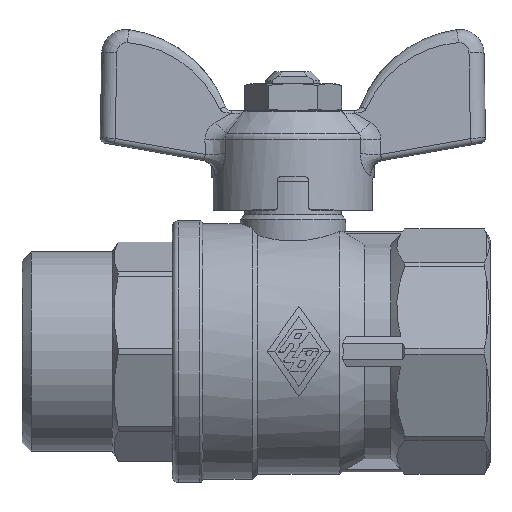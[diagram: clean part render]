
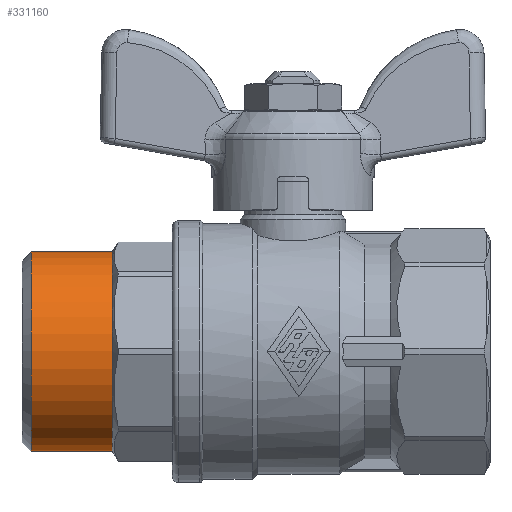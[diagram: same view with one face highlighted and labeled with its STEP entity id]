
A CAD part, top view. The second image highlights one B-rep face of the part: STEP entity #331160.
In plain terms, the highlighted cylindrical face has radius 16.55 mm (diameter 33.1 mm), a partial arc.
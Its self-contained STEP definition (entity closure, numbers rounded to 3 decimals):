
#161670=CARTESIAN_POINT('',(43.497,16.55,
0.));
#161680=VERTEX_POINT('',#161670);
#161710=CARTESIAN_POINT('',(43.497,0.,0.));
#161720=DIRECTION('',(1.,0.,0.));
#161730=DIRECTION('',(0.,-1.,0.));
#161740=AXIS2_PLACEMENT_3D('',#161710,#161720,#161730);
#161750=CIRCLE('',#161740,16.55);
#161760=CARTESIAN_POINT('',(43.497,-16.55,
0.));
#161770=VERTEX_POINT('',#161760);
#161780=EDGE_CURVE('',#161770,#161680,#161750,.T.);
#161900=CARTESIAN_POINT('',(36.748,0.,0.));
#161910=DIRECTION('',(1.,0.,0.));
#161920=DIRECTION('',(0.,1.,0.));
#161930=AXIS2_PLACEMENT_3D('',#161900,#161910,#161920);
#161940=CYLINDRICAL_SURFACE('',#161930,16.55);
#161950=CARTESIAN_POINT('',(36.748,-16.55,
0.));
#161960=DIRECTION('',(1.,0.,0.));
#161970=VECTOR('',#161960,1.);
#161980=LINE('',#161950,#161970);
#161990=CARTESIAN_POINT('',(30.,-16.55,0.))
;
#162000=VERTEX_POINT('',#161990);
#162010=EDGE_CURVE('',#162000,#161770,#161980,.T.);
#162030=CARTESIAN_POINT('',(30.,0.,0.));
#162040=DIRECTION('',(1.,0.,0.));
#162050=DIRECTION('',(0.,-1.,0.));
#162060=AXIS2_PLACEMENT_3D('',#162030,#162040,#162050);
#162070=CIRCLE('',#162060,16.55);
#162080=CARTESIAN_POINT('',(30.,16.55,0.))
;
#162090=VERTEX_POINT('',#162080);
#162120=CARTESIAN_POINT('',(36.748,16.55,
0.));
#162130=DIRECTION('',(1.,0.,0.));
#162140=VECTOR('',#162130,1.);
#162150=LINE('',#162120,#162140);
#162160=EDGE_CURVE('',#162090,#161680,#162150,.T.);
#328860=EDGE_CURVE('',#162000,#162090,#162070,.T.);
#331100=ORIENTED_EDGE('',*,*,#328860,.T.);
#331110=ORIENTED_EDGE('',*,*,#162010,.F.);
#331120=ORIENTED_EDGE('',*,*,#161780,.F.);
#331130=ORIENTED_EDGE('',*,*,#162160,.T.);
#331140=EDGE_LOOP('',(#331130,#331120,#331110,#331100));
#331150=FACE_OUTER_BOUND('',#331140,.T.);
#331160=ADVANCED_FACE('',(#331150),#161940,.T.);
